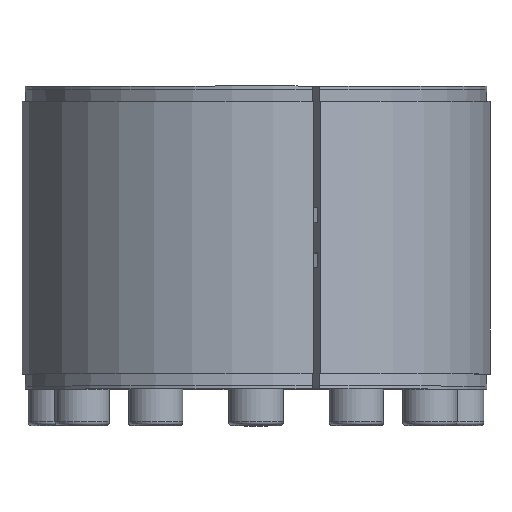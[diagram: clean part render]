
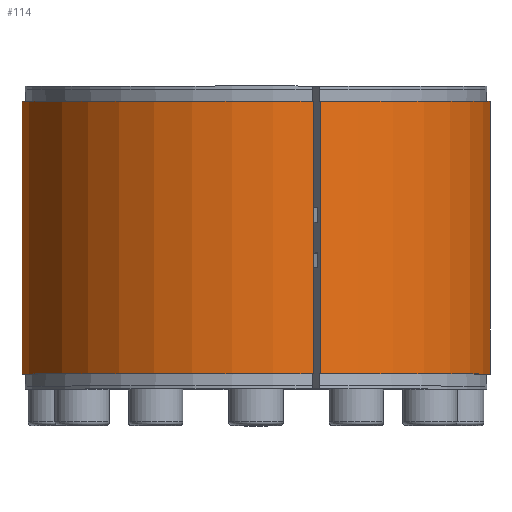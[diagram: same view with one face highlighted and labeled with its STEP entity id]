
A CAD part, top view. The second image highlights one B-rep face of the part: STEP entity #114.
In plain terms, the highlighted cylindrical face has radius 77.5 mm (diameter 155 mm), a partial arc.
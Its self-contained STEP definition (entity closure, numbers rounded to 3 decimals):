
#114 = ADVANCED_FACE( '', ( #298 ), #299, .T. );
#298 = FACE_OUTER_BOUND( '', #612, .T. );
#299 = CYLINDRICAL_SURFACE( '', #613, 77.5 );
#612 = EDGE_LOOP( '', ( #992, #993, #994, #995 ) );
#613 = AXIS2_PLACEMENT_3D( '', #996, #997, #998 );
#992 = ORIENTED_EDGE( '', *, *, #1499, .F. );
#993 = ORIENTED_EDGE( '', *, *, #1500, .T. );
#994 = ORIENTED_EDGE( '', *, *, #1486, .F. );
#995 = ORIENTED_EDGE( '', *, *, #1501, .F. );
#996 = CARTESIAN_POINT( '', ( 0., -60., 0. ) );
#997 = DIRECTION( '', ( 0., 1., 0. ) );
#998 = DIRECTION( '', ( 0., 0., -1. ) );
#1486 = EDGE_CURVE( '', #1769, #1771, #1772, .F. );
#1499 = EDGE_CURVE( '', #1794, #1795, #1796, .T. );
#1500 = EDGE_CURVE( '', #1794, #1771, #1797, .T. );
#1501 = EDGE_CURVE( '', #1795, #1769, #1798, .T. );
#1769 = VERTEX_POINT( '', #2213 );
#1771 = VERTEX_POINT( '', #2216 );
#1772 = LINE( '', #2217, #2218 );
#1794 = VERTEX_POINT( '', #2257 );
#1795 = VERTEX_POINT( '', #2258 );
#1796 = LINE( '', #2259, #2260 );
#1797 = CIRCLE( '', #2261, 77.5 );
#1798 = CIRCLE( '', #2262, 77.5 );
#2213 = CARTESIAN_POINT( '', ( 21.263, 5., 74.526 ) );
#2216 = CARTESIAN_POINT( '', ( 21.263, 95., 74.526 ) );
#2217 = CARTESIAN_POINT( '', ( 21.263, -60., 74.526 ) );
#2218 = VECTOR( '', #2600, 1000. );
#2257 = CARTESIAN_POINT( '', ( 18.848, 95., 75.173 ) );
#2258 = CARTESIAN_POINT( '', ( 18.848, 5., 75.173 ) );
#2259 = CARTESIAN_POINT( '', ( 18.848, -60., 75.173 ) );
#2260 = VECTOR( '', #2609, 1000. );
#2261 = AXIS2_PLACEMENT_3D( '', #2610, #2611, #2612 );
#2262 = AXIS2_PLACEMENT_3D( '', #2613, #2614, #2615 );
#2600 = DIRECTION( '', ( 0., -1., 0. ) );
#2609 = DIRECTION( '', ( 0., -1., 0. ) );
#2610 = CARTESIAN_POINT( '', ( 0., 95., 0. ) );
#2611 = DIRECTION( '', ( 0., -1., 0. ) );
#2612 = DIRECTION( '', ( 0., 0., -1. ) );
#2613 = CARTESIAN_POINT( '', ( 0., 5., 0. ) );
#2614 = DIRECTION( '', ( 0., -1., 0. ) );
#2615 = DIRECTION( '', ( 0., 0., -1. ) );
